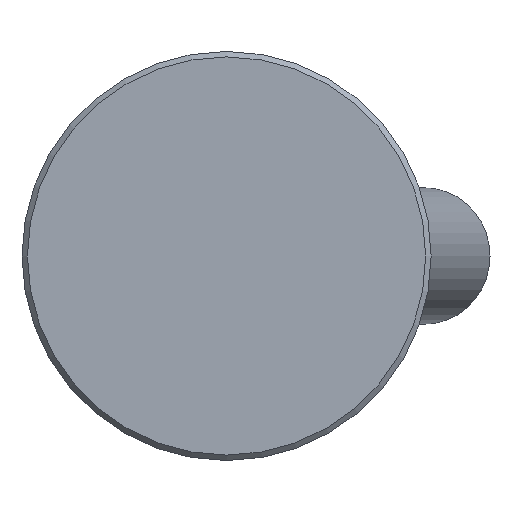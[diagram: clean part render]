
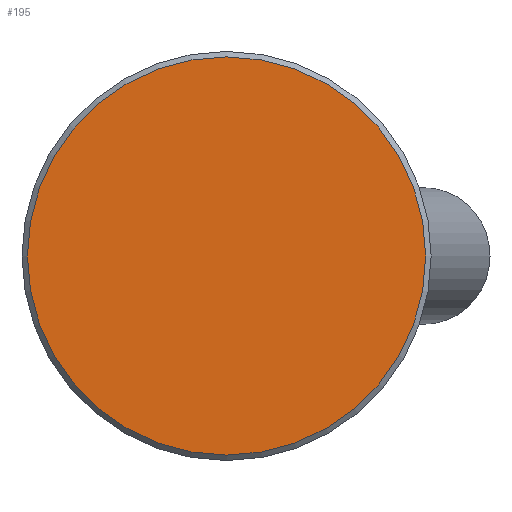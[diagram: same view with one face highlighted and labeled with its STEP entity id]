
A CAD part, front view. The second image highlights one B-rep face of the part: STEP entity #195.
In plain terms, the highlighted planar face has unit normal (0, -1, 0).
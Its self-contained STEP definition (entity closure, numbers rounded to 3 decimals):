
#195 = ADVANCED_FACE( '', ( #383 ), #384, .F. );
#383 = FACE_OUTER_BOUND( '', #583, .T. );
#384 = PLANE( '', #584 );
#583 = EDGE_LOOP( '', ( #900 ) );
#584 = AXIS2_PLACEMENT_3D( '', #901, #902, #903 );
#900 = ORIENTED_EDGE( '', *, *, #1174, .T. );
#901 = CARTESIAN_POINT( '', ( 29.2, 0., 0. ) );
#902 = DIRECTION( '', ( 0., 1., 0. ) );
#903 = DIRECTION( '', ( 0., 0., 1. ) );
#1174 = EDGE_CURVE( '', #1373, #1373, #1374, .T. );
#1373 = VERTEX_POINT( '', #1758 );
#1374 = CIRCLE( '', #1759, 29.2 );
#1758 = CARTESIAN_POINT( '', ( 0., 0., -29.2 ) );
#1759 = AXIS2_PLACEMENT_3D( '', #2074, #2075, #2076 );
#2074 = CARTESIAN_POINT( '', ( 0., 0., 0. ) );
#2075 = DIRECTION( '', ( 0., -1., 0. ) );
#2076 = DIRECTION( '', ( 0., 0., -1. ) );
